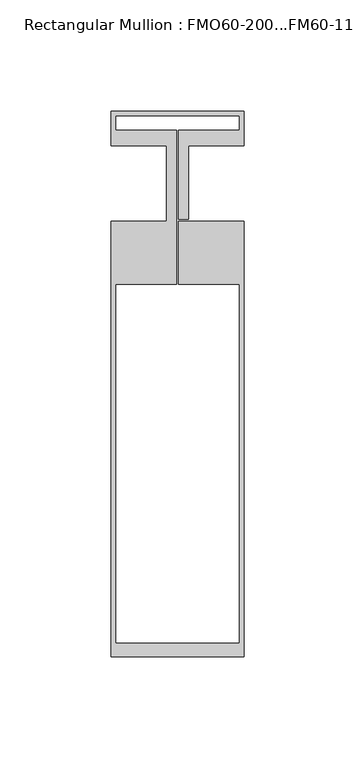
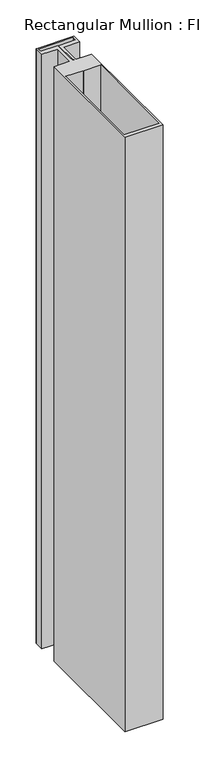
"""IFC4 building model written with IfcOpenShell, lengths in millimetres: member geometry, Rectangular Mullion : FMO60-200...FM60-11."""

from ifc_helpers import new_model, si_unit, point, frame, frame_2d, origin, place, context, project, spatial, polyline, circle_curve, trimmed, segment, composite_curve, outline, extrude, source, transform, mapped, element, save


def rectangular_mullion_fmo60_200_fm60_11_e7f553fe(model_context):
    return source(origin(), model_context, "Body", "SweptSolid", [
        extrude(outline(composite_curve([segment(polyline([(-29.5, 32.5117899), (29.5, 32.5117899)]), True, "CONTINUOUS"), segment(trimmed(circle_curve(frame_2d((29.5, 32.0117899)), 0.5), [point((29.5, 32.5117899))], [point((30.0, 32.0117899))], False, "CARTESIAN"), True, "CONTINUOUS"), segment(polyline([(30.0, 32.0117899), (30.0, 17.0), (5.0, 17.0), (5.0, -16.2), (0.5, -16.2), (0.5, 23.8476589), (28.0000412, 23.8476589), (28.0000412, 30.5117899), (-28.0000412, 30.5117899), (-28.0000412, 23.8476589), (-0.5, 23.8476589), (-0.5, -45.5034642), (-28.0, -45.5034642), (-28.0, -207.009342), (28.0, -207.009342), (28.0, -45.5034642), (0.5, -45.5034642), (0.5, -17.0), (30.0, -17.0), (30.0, -213.009342), (-30.0, -213.009342), (-30.0, -17.0), (-5.0, -17.0), (-5.0, 17.0), (-30.0, 17.0), (-30.0, 32.0117899)]), True, "CONTINUOUS"), segment(trimmed(circle_curve(frame_2d((-29.5, 32.0117899)), 0.5), [point((-30.0, 32.0117899))], [point((-29.5, 32.5117899))], False, "CARTESIAN"), True, "CONTINUOUS")], self_intersect=False)), frame((0.0, 0.0, -1000.0), z_axis=(0.0, 0.0, 1.0), x_axis=(1.0, 0.0, 0.0)), (0.0, 0.0, 1.0), 1000.0),
    ])


if __name__ == "__main__":
    model = new_model("IFC4")
    model_context = context("Model", 3, world=origin())
    ifc_project = project(units=[si_unit("LENGTHUNIT", "METRE", prefix="MILLI")], contexts=[model_context])
    site = spatial("IfcSite", under=ifc_project)
    building = spatial("IfcBuilding", under=site)
    placement = place(None, origin())
    rectangular_mullion_fmo60_200_fm60_11_shape = rectangular_mullion_fmo60_200_fm60_11_e7f553fe(model_context)
    element("IfcMember", 1, ObjectType="Rectangular Mullion : FMO60-200...FM60-11", at=placement, inside=building, context=model_context, shape_type="MappedRepresentation", body=[
        mapped(rectangular_mullion_fmo60_200_fm60_11_shape, transform((0.0, 0.0, 0.0), x_axis=(1.0, 0.0, 0.0), y_axis=(0.0, 1.0, 0.0), z_axis=(0.0, 0.0, 1.0))),
    ])
    save(model, "model.ifc")
